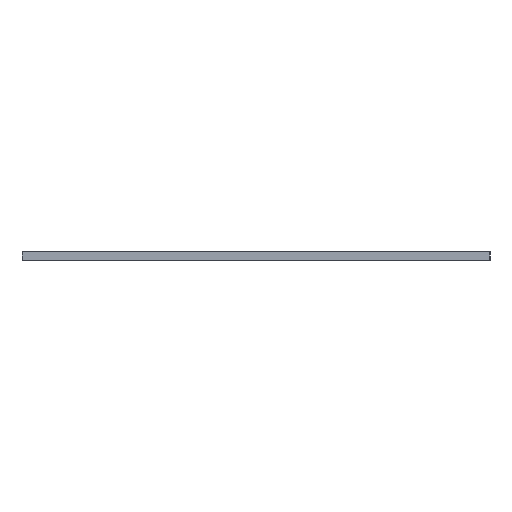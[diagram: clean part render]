
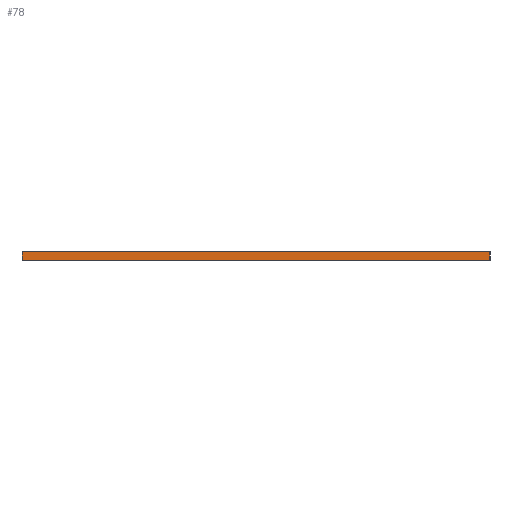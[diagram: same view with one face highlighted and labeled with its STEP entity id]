
A CAD part, front view. The second image highlights one B-rep face of the part: STEP entity #78.
In plain terms, the highlighted planar face has unit normal (0, -1, 0).
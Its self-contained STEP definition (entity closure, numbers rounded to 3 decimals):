
#78 = ADVANCED_FACE ( 'NONE', ( #1994 ), #669, .F. ) ;
#85 = VERTEX_POINT ( 'NONE', #92 ) ;
#92 = CARTESIAN_POINT ( 'NONE',  ( 860., 0., 15. ) ) ;
#137 = EDGE_CURVE ( 'NONE', #1530, #565, #281, .T. ) ;
#178 = VECTOR ( 'NONE', #937, 1000. ) ;
#195 = LINE ( 'NONE', #2195, #432 ) ;
#249 = EDGE_CURVE ( 'NONE', #565, #85, #1438, .T. ) ;
#255 = ORIENTED_EDGE ( 'NONE', *, *, #249, .F. ) ;
#281 = LINE ( 'NONE', #1659, #1344 ) ;
#432 = VECTOR ( 'NONE', #1114, 1000. ) ;
#555 = CARTESIAN_POINT ( 'NONE',  ( 860., 0., 15. ) ) ;
#565 = VERTEX_POINT ( 'NONE', #1426 ) ;
#568 = ORIENTED_EDGE ( 'NONE', *, *, #137, .F. ) ;
#571 = VERTEX_POINT ( 'NONE', #1436 ) ;
#669 = PLANE ( 'NONE',  #2145 ) ;
#710 = EDGE_CURVE ( 'NONE', #571, #1530, #195, .T. ) ;
#936 = CARTESIAN_POINT ( 'NONE',  ( 0., 0., 15. ) ) ;
#937 = DIRECTION ( 'NONE',  ( 0., 0., -1. ) ) ;
#1099 = LINE ( 'NONE', #555, #178 ) ;
#1114 = DIRECTION ( 'NONE',  ( -1., 0., 0. ) ) ;
#1222 = CARTESIAN_POINT ( 'NONE',  ( 0., 0., 15. ) ) ;
#1281 = DIRECTION ( 'NONE',  ( 0., 0., 1. ) ) ;
#1326 = DIRECTION ( 'NONE',  ( 1., 0., 0. ) ) ;
#1332 = ORIENTED_EDGE ( 'NONE', *, *, #2360, .F. ) ;
#1344 = VECTOR ( 'NONE', #1281, 1000. ) ;
#1426 = CARTESIAN_POINT ( 'NONE',  ( 0., 0., 15. ) ) ;
#1436 = CARTESIAN_POINT ( 'NONE',  ( 860., 0., 0. ) ) ;
#1438 = LINE ( 'NONE', #936, #1892 ) ;
#1530 = VERTEX_POINT ( 'NONE', #1609 ) ;
#1609 = CARTESIAN_POINT ( 'NONE',  ( 0., 0., 0. ) ) ;
#1659 = CARTESIAN_POINT ( 'NONE',  ( 0., 0., 15. ) ) ;
#1786 = ORIENTED_EDGE ( 'NONE', *, *, #710, .F. ) ;
#1880 = EDGE_LOOP ( 'NONE', ( #1332, #255, #568, #1786 ) ) ;
#1892 = VECTOR ( 'NONE', #1326, 1000. ) ;
#1959 = DIRECTION ( 'NONE',  ( 0., 1., 0. ) ) ;
#1991 = DIRECTION ( 'NONE',  ( 0., 0., 1. ) ) ;
#1994 = FACE_OUTER_BOUND ( 'NONE', #1880, .T. ) ;
#2145 = AXIS2_PLACEMENT_3D ( 'NONE', #1222, #1959, #1991 ) ;
#2195 = CARTESIAN_POINT ( 'NONE',  ( 0., 0., 0. ) ) ;
#2360 = EDGE_CURVE ( 'NONE', #85, #571, #1099, .T. ) ;
